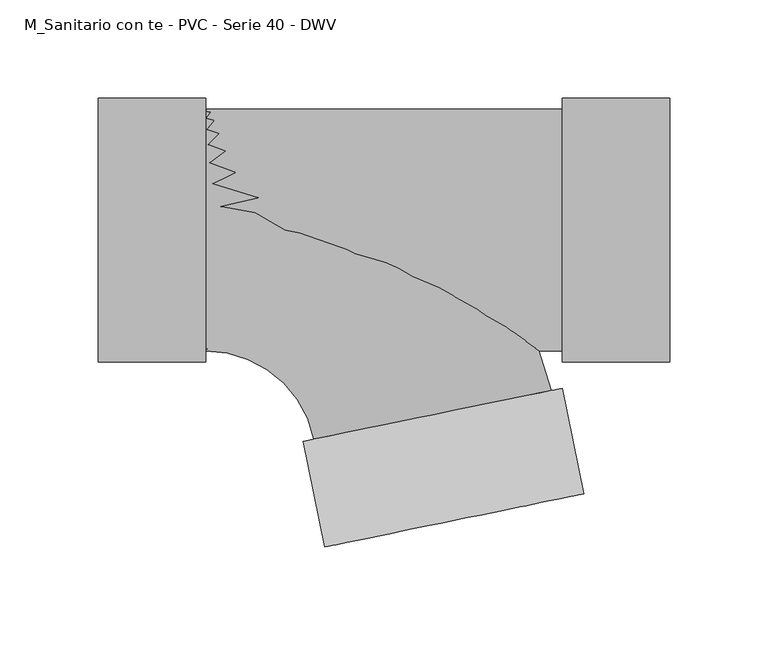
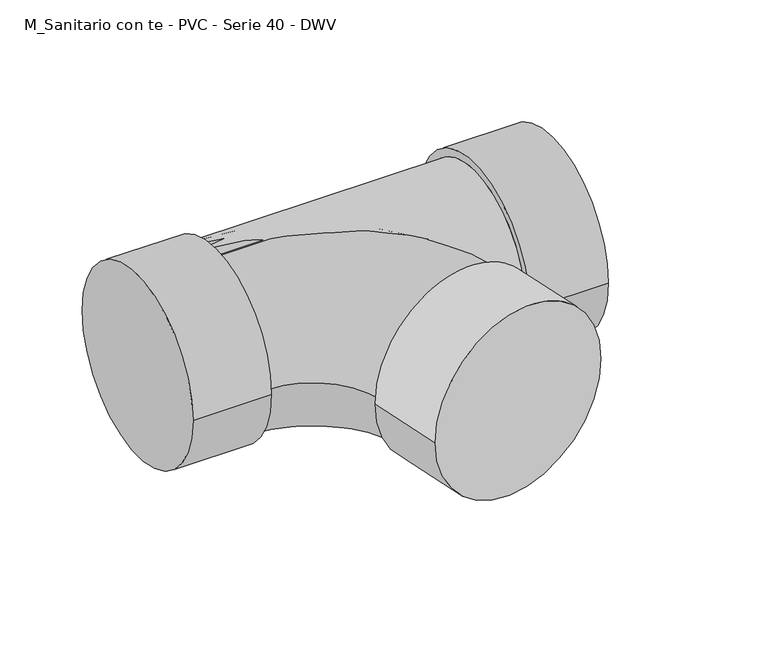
"""IFC4 building model written with IfcOpenShell, lengths in millimetres: pipe fitting geometry, M_Sanitario con te - PVC - Serie 40 - DWV : Estándar."""

from ifc_helpers import new_model, si_unit, point, frame, origin, place, context, project, spatial, circle_curve, ellipse_curve, trimmed, source, transform, mapped, element, save
from ifc_brep_helpers import plane_surface, cylinder_surface, revolved_surface, advanced_brep


def m_sanitario_con_te_pvc_serie_40_dwv_3fb9c0d5(model_context):
    return source(origin(), model_context, "Body", "AdvancedBrep", [
        advanced_brep(
        [(-96.2140625, -61.7640625, 0.0), (-96.2140625, 61.7640625, 0.0), (-41.1587215, -106.6672625, 0.0), (79.8470006, -81.8315448, 0.0), (96.4131496, -134.5779321, 0.0), (-35.6090249, -161.6747122, 0.0), (85.3552268, -80.7010136, 0.0), (-46.6669477, -107.7977937, 0.0)],
        [
            (0, 1, circle_curve(frame((-96.2140625, 0.0, 0.0), z_axis=(-1.0, 0.0, 0.0), x_axis=(0.0, 1.0, 0.0)), 61.7640625)),
            (1, 0, circle_curve(frame((-96.2140625, 0.0, 0.0), z_axis=(-1.0, 0.0, 0.0), x_axis=(0.0, 1.0, 0.0)), 61.7640625)),
            (0, 2, circle_curve(frame((-96.2140625, -117.9670496, 0.0), z_axis=(0.0, 0.0, -1.0), x_axis=(0.0, 1.0, 0.0)), 56.2029871)),
            (2, 3, circle_curve(frame((19.3441395, -94.2494036, 0.0), z_axis=(-0.2010531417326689, 0.9795803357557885, 0.0), x_axis=(0.9795803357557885, 0.2010531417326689, 0.0)), 61.7640625)),
            (3, 1, circle_curve(frame((-96.2140625, -117.9670496, 0.0), z_axis=(0.0, 0.0, 1.0), x_axis=(0.0, 1.0, 0.0)), 179.7311121)),
            (3, 2, circle_curve(frame((19.3441395, -94.2494036, 0.0), z_axis=(-0.20105314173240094, 0.9795803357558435, 0.0), x_axis=(0.9795803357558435, 0.20105314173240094, 0.0)), 61.7640625)),
            (4, 5, circle_curve(frame((30.4020623, -148.1263221, 0.0), z_axis=(0.2010531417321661, -0.9795803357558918, 0.0), x_axis=(-0.9795803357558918, -0.2010531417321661, 0.0)), 67.3871094)),
            (5, 4, circle_curve(frame((30.4020623, -148.1263221, 0.0), z_axis=(0.2010531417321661, -0.9795803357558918, 0.0), x_axis=(-0.9795803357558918, -0.2010531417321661, 0.0)), 67.3871094)),
            (6, 7, circle_curve(frame((19.3441395, -94.2494036, 0.0), z_axis=(-0.2010531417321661, 0.9795803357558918, 0.0), x_axis=(-0.9795803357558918, -0.2010531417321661, 0.0)), 67.3871094)),
            (7, 6, circle_curve(frame((19.3441395, -94.2494036, 0.0), z_axis=(-0.2010531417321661, 0.9795803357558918, 0.0), x_axis=(-0.9795803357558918, -0.2010531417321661, 0.0)), 67.3871094)),
            (4, 6),
            (7, 5),
        ],
        [
            plane_surface(frame((-96.2140625, 0.0, 0.0), z_axis=(-1.0, 0.0, 0.0), x_axis=(0.0, 0.0, 1.0))),
            revolved_surface(trimmed(ellipse_curve(frame((-96.2140625, 0.0, 0.0), z_axis=(-1.0, 0.0, 0.0), x_axis=(0.0, 1.0, 0.0)), 61.7640625, 61.7640625), [point((-96.2140625, -61.7640625, 0.0))], [point((-96.2140625, 61.7640625, 0.0))], True, "CARTESIAN"), (-96.2140625, -117.9670496, 0.0), (0.0, 0.0, -1.0)),
            revolved_surface(trimmed(ellipse_curve(frame((-96.2140625, 0.0, 0.0), z_axis=(-1.0, 0.0, 0.0), x_axis=(0.0, 1.0, 0.0)), 61.7640625, 61.7640625), [point((-96.2140625, 61.7640625, 0.0))], [point((-96.2140625, -61.7640625, 0.0))], True, "CARTESIAN"), (-96.2140625, -117.9670496, 0.0), (0.0, 0.0, -1.0)),
            plane_surface(frame((30.4020623, -148.1263221, 0.0), z_axis=(0.20105314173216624, -0.9795803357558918, 0.0), x_axis=(0.0, 0.0, 1.0))),
            plane_surface(frame((19.3441395, -94.2494036, 0.0), z_axis=(-0.2010531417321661, 0.9795803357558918, 0.0), x_axis=(0.0, 0.0, 1.0))),
            cylinder_surface(frame((30.4020623, -148.1263221, 0.0), z_axis=(0.2010531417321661, -0.9795803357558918, 0.0), x_axis=(-0.9795803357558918, -0.2010531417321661, 0.0)), 67.3871094),
        ],
        [
            (0, [[1, 2]]),
            (1, [[-1, 3, 4, 5]]),
            (2, [[-2, -5, 6, -3]]),
            (3, [[7, 8]]),
            (4, [[9, 10], [-4, -6]]),
            (5, [[-7, 11, -10, 12]]),
            (5, [[-8, -12, -9, -11]]),
        ],
    ),
        advanced_brep(
        [(-96.2140625, -61.7640625, 0.0), (85.3552268, -61.7640625, 0.0), (85.3552268, 61.7640625, 0.0), (-96.2140625, 61.7640625, 0.0), (85.3552268, -67.3871094, 0.0), (85.3552268, 67.3871094, 0.0), (140.3552268, -67.3871094, 0.0), (140.3552268, 67.3871094, 0.0), (-151.2140625, -67.3871094, 0.0), (-151.2140625, 67.3871094, 0.0), (-96.2140625, -67.3871094, 0.0), (-96.2140625, 67.3871094, 0.0)],
        [
            (0, 1),
            (1, 2, circle_curve(frame((85.3552268, 0.0, 0.0), z_axis=(-1.0, 0.0, 0.0), x_axis=(0.0, 1.0, 0.0)), 61.7640625)),
            (2, 3),
            (3, 0, circle_curve(frame((-96.2140625, 0.0, 0.0), z_axis=(1.0, 0.0, 0.0), x_axis=(0.0, 1.0, 0.0)), 61.7640625)),
            (0, 3, circle_curve(frame((-96.2140625, 0.0, 0.0), z_axis=(1.0, 0.0, 0.0), x_axis=(0.0, 1.0, 0.0)), 61.7640625)),
            (2, 1, circle_curve(frame((85.3552268, 0.0, 0.0), z_axis=(-1.0, 0.0, 0.0), x_axis=(0.0, 1.0, 0.0)), 61.7640625)),
            (4, 5, circle_curve(frame((85.3552268, 0.0, 0.0), z_axis=(-1.0, 0.0, 0.0), x_axis=(0.0, 1.0, 0.0)), 67.3871094)),
            (5, 4, circle_curve(frame((85.3552268, 0.0, 0.0), z_axis=(-1.0, 0.0, 0.0), x_axis=(0.0, 1.0, 0.0)), 67.3871094)),
            (6, 7, circle_curve(frame((140.3552268, 0.0, 0.0), z_axis=(1.0, 0.0, 0.0), x_axis=(0.0, 1.0, 0.0)), 67.3871094)),
            (7, 6, circle_curve(frame((140.3552268, 0.0, 0.0), z_axis=(1.0, 0.0, 0.0), x_axis=(0.0, 1.0, 0.0)), 67.3871094)),
            (4, 6),
            (7, 5),
            (8, 9, circle_curve(frame((-151.2140625, 0.0, 0.0), z_axis=(-1.0, 0.0, 0.0), x_axis=(0.0, 1.0, 0.0)), 67.3871094)),
            (9, 8, circle_curve(frame((-151.2140625, 0.0, 0.0), z_axis=(-1.0, 0.0, 0.0), x_axis=(0.0, 1.0, 0.0)), 67.3871094)),
            (10, 11, circle_curve(frame((-96.2140625, 0.0, 0.0), z_axis=(1.0, 0.0, 0.0), x_axis=(0.0, 1.0, 0.0)), 67.3871094)),
            (11, 10, circle_curve(frame((-96.2140625, 0.0, 0.0), z_axis=(1.0, 0.0, 0.0), x_axis=(0.0, 1.0, 0.0)), 67.3871094)),
            (8, 10),
            (11, 9),
        ],
        [
            cylinder_surface(frame((-96.2140625, 0.0, 0.0), z_axis=(-1.0, 0.0, 0.0), x_axis=(0.0, 1.0, 0.0)), 61.7640625),
            plane_surface(frame((85.3552268, 0.0, 0.0), z_axis=(-1.0, 0.0, 0.0), x_axis=(0.0, 0.0, 1.0))),
            plane_surface(frame((140.3552268, 0.0, 0.0), z_axis=(1.0, 0.0, 0.0), x_axis=(0.0, 0.0, 1.0))),
            cylinder_surface(frame((85.3552268, 0.0, 0.0), z_axis=(-1.0, 0.0, 0.0), x_axis=(0.0, 1.0, 0.0)), 67.3871094),
            plane_surface(frame((-151.2140625, 0.0, 0.0), z_axis=(-1.0, 0.0, 0.0), x_axis=(0.0, 0.0, 1.0))),
            plane_surface(frame((-96.2140625, 0.0, 0.0), z_axis=(1.0, 0.0, 0.0), x_axis=(0.0, 0.0, 1.0))),
            cylinder_surface(frame((-151.2140625, 0.0, 0.0), z_axis=(-1.0, 0.0, 0.0), x_axis=(0.0, 1.0, 0.0)), 67.3871094),
        ],
        [
            (0, [[1, 2, 3, 4]]),
            (0, [[-1, 5, -3, 6]]),
            (1, [[7, 8], [-2, -6]]),
            (2, [[9, 10]]),
            (3, [[-7, 11, -10, 12]]),
            (3, [[-8, -12, -9, -11]]),
            (4, [[13, 14]]),
            (5, [[15, 16], [-4, -5]]),
            (6, [[-13, 17, -16, 18]]),
            (6, [[-14, -18, -15, -17]]),
        ],
    ),
    ])


if __name__ == "__main__":
    model = new_model("IFC4")
    model_context = context("Model", 3, world=origin())
    ifc_project = project(units=[si_unit("LENGTHUNIT", "METRE", prefix="MILLI")], contexts=[model_context])
    site = spatial("IfcSite", under=ifc_project)
    building = spatial("IfcBuilding", under=site)
    placement = place(None, origin())
    m_sanitario_con_te_pvc_serie_40_dwv_shape = m_sanitario_con_te_pvc_serie_40_dwv_3fb9c0d5(model_context)
    element("IfcPipeFitting", 1, ObjectType="M_Sanitario con te - PVC - Serie 40 - DWV : Estándar", at=placement, inside=building, context=model_context, shape_type="MappedRepresentation", body=[
        mapped(m_sanitario_con_te_pvc_serie_40_dwv_shape, transform((0.0, 0.0, 0.0), x_axis=(1.0, 0.0, 0.0), y_axis=(0.0, 1.0, 0.0), z_axis=(0.0, 0.0, 1.0))),
    ])
    save(model, "model.ifc")
